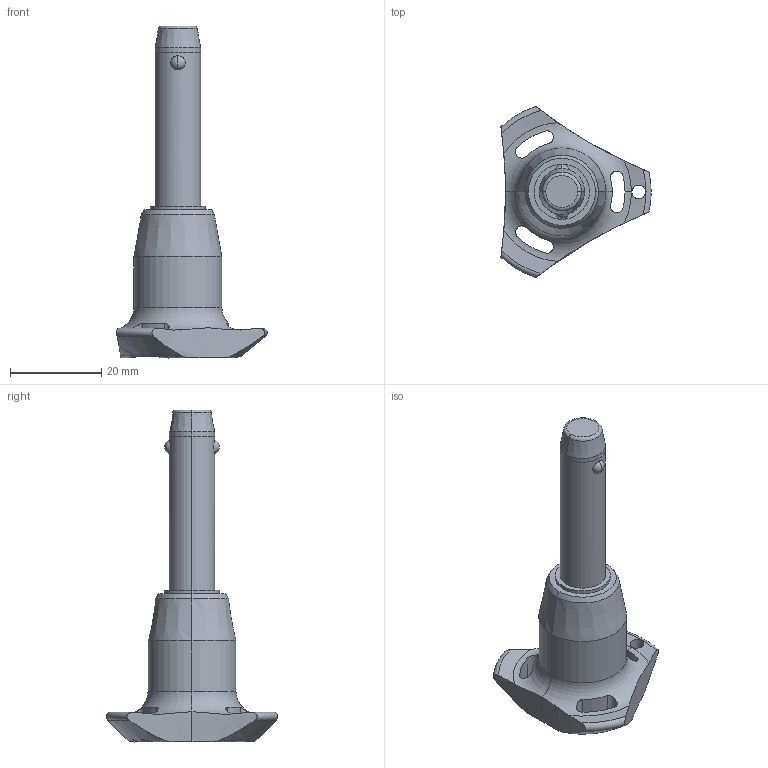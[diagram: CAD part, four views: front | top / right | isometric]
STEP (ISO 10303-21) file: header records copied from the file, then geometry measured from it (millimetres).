
FILE_DESCRIPTION (( 'STEP AP203' ), '1' );
FILE_NAME ('QR1726.M10-030-T.step', '2025-11-13T11:09:11', ( '' ), ( '' ), 'SwSTEP 2.0', 'SolidWorks 2019', '' );
FILE_SCHEMA (( 'CONFIG_CONTROL_DESIGN' ));
Length unit declared in the file: millimetre
Products named in the file (1): QR1726.M10-030-T
Bounding box: 33 x 37.51 x 72.9 mm (x, y, z)
Volume: 13435.8 mm3; surface area: 5107.1 mm2
Topology: 1 solids, 1 shells, 68 faces, 180 edges, 113 vertices
Faces by surface type: cylinder 32, cone 14, torus 11, sphere 6, plane 5
Entity records: 2838 total; most frequent: CARTESIAN_POINT 1098, ORIENTED_EDGE 360, DIRECTION 347, EDGE_CURVE 180, AXIS2_PLACEMENT_3D 154, VERTEX_POINT 113, CIRCLE 85, EDGE_LOOP 75
